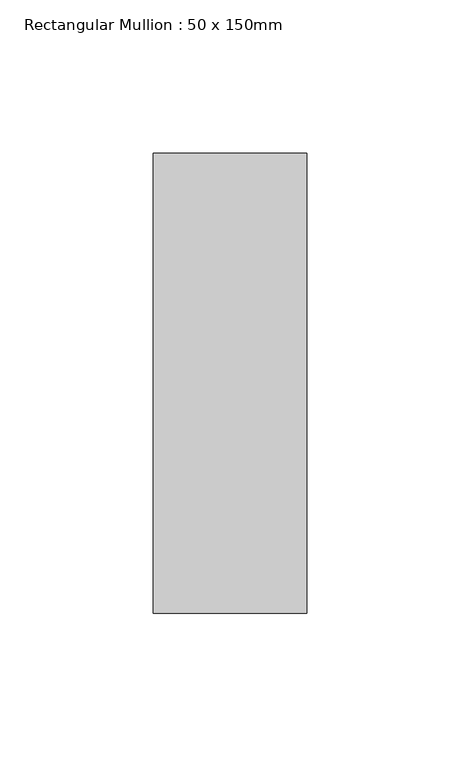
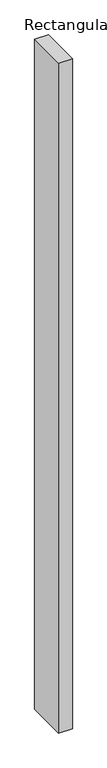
"""IFC4 building model written with IfcOpenShell, lengths in millimetres: member geometry, Rectangular Mullion : 50 x 150mm."""

from ifc_helpers import new_model, si_unit, frame, origin, place, context, project, spatial, polyline, outline, extrude, source, transform, mapped, element, save


def rectangular_mullion_50_x_150mm_da4cfd0d(model_context):
    return source(origin(), model_context, "Body", "SweptSolid", [
        extrude(outline(polyline([(0.0, 75.0), (0.0, -75.0), (-50.0, -75.0), (-50.0, 75.0), (0.0, 75.0)])), frame((0.0, 0.0, -2570.0), z_axis=(0.0, 0.0, 1.0), x_axis=(1.0, 0.0, 0.0)), (0.0, 0.0, 1.0), 2570.0),
    ])


if __name__ == "__main__":
    model = new_model("IFC4")
    model_context = context("Model", 3, world=origin())
    ifc_project = project(units=[si_unit("LENGTHUNIT", "METRE", prefix="MILLI")], contexts=[model_context])
    site = spatial("IfcSite", under=ifc_project)
    building = spatial("IfcBuilding", under=site)
    placement = place(None, origin())
    rectangular_mullion_50_x_150mm_shape = rectangular_mullion_50_x_150mm_da4cfd0d(model_context)
    element("IfcMember", 1, ObjectType="Rectangular Mullion : 50 x 150mm", at=placement, inside=building, context=model_context, shape_type="MappedRepresentation", body=[
        mapped(rectangular_mullion_50_x_150mm_shape, transform((0.0, 0.0, 0.0), x_axis=(1.0, 0.0, 0.0), y_axis=(0.0, 1.0, 0.0), z_axis=(0.0, 0.0, 1.0))),
    ])
    save(model, "model.ifc")
